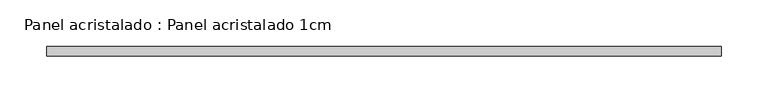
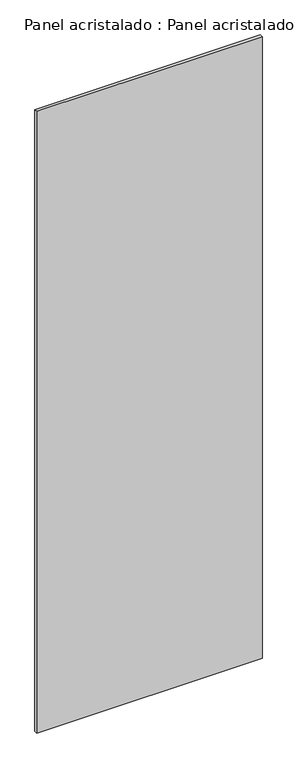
"""IFC4 building model written with IfcOpenShell, lengths in millimetres: plate geometry, Panel acristalado : Panel acristalado 1cm."""

from ifc_helpers import new_model, si_unit, origin, origin_with_axes, place, context, project, spatial, polyline, outline, extrude, source, transform, mapped, element, save


def panel_acristalado_panel_acristalado_1cm_bab7a65c(model_context):
    return source(origin(), model_context, "Body", "SweptSolid", [
        extrude(outline(polyline([(360.0, 20.0), (-360.0, 20.0), (-360.0, 30.0), (360.0, 30.0), (360.0, 20.0)])), origin_with_axes(), (0.0, 0.0, 1.0), 2100.0),
    ])


if __name__ == "__main__":
    model = new_model("IFC4")
    model_context = context("Model", 3, world=origin())
    ifc_project = project(units=[si_unit("LENGTHUNIT", "METRE", prefix="MILLI")], contexts=[model_context])
    site = spatial("IfcSite", under=ifc_project)
    building = spatial("IfcBuilding", under=site)
    placement = place(None, origin())
    panel_acristalado_panel_acristalado_1cm_shape = panel_acristalado_panel_acristalado_1cm_bab7a65c(model_context)
    element("IfcPlate", 1, ObjectType="Panel acristalado : Panel acristalado 1cm", at=placement, inside=building, context=model_context, shape_type="MappedRepresentation", body=[
        mapped(panel_acristalado_panel_acristalado_1cm_shape, transform((0.0, 0.0, 0.0), x_axis=(1.0, 0.0, 0.0), y_axis=(0.0, 1.0, 0.0), z_axis=(0.0, 0.0, 1.0))),
    ])
    save(model, "model.ifc")
